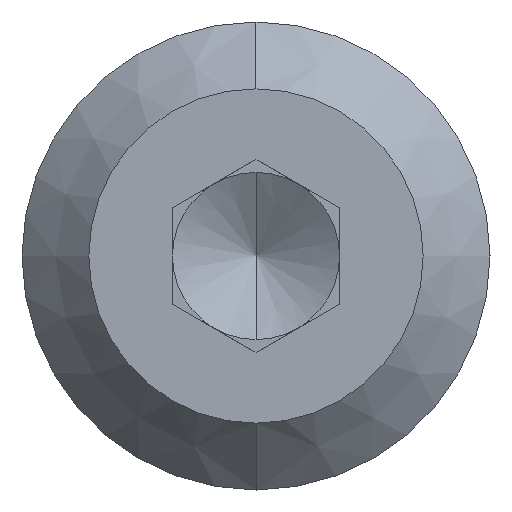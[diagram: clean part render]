
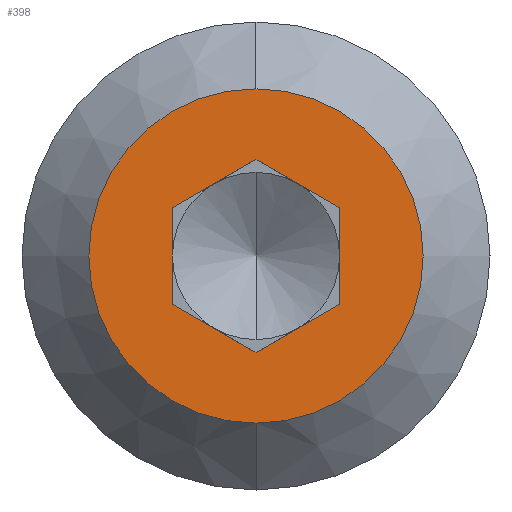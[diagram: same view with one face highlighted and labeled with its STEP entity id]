
A CAD part, left-side view. The second image highlights one B-rep face of the part: STEP entity #398.
In plain terms, the highlighted planar face has unit normal (-1, 0, 0).
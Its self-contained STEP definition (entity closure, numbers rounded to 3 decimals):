
#4 = ORIENTED_EDGE ( 'NONE', *, *, #58, .F. ) ;
#11 = DIRECTION ( 'NONE',  ( 0., 0., -1. ) ) ;
#15 = EDGE_CURVE ( 'NONE', #844, #641, #825, .T. ) ;
#18 = CARTESIAN_POINT ( 'NONE',  ( -9.5, 2.5, 0. ) ) ;
#48 = DIRECTION ( 'NONE',  ( 0., 0., -1. ) ) ;
#58 = EDGE_CURVE ( 'NONE', #629, #303, #1059, .T. ) ;
#79 = EDGE_LOOP ( 'NONE', ( #4, #839, #201, #671, #355, #1046 ) ) ;
#100 = PLANE ( 'NONE',  #226 ) ;
#125 = VECTOR ( 'NONE', #786, 1000. ) ;
#127 = CIRCLE ( 'NONE', #831, 5. ) ;
#136 = EDGE_CURVE ( 'NONE', #1069, #629, #1009, .T. ) ;
#182 = CARTESIAN_POINT ( 'NONE',  ( -9.5, 0., -2.887 ) ) ;
#188 = EDGE_LOOP ( 'NONE', ( #204, #921 ) ) ;
#201 = ORIENTED_EDGE ( 'NONE', *, *, #745, .F. ) ;
#204 = ORIENTED_EDGE ( 'NONE', *, *, #803, .F. ) ;
#226 = AXIS2_PLACEMENT_3D ( 'NONE', #18, #526, #870 ) ;
#239 = VECTOR ( 'NONE', #826, 1000. ) ;
#264 = CARTESIAN_POINT ( 'NONE',  ( -9.5, 0., 0. ) ) ;
#268 = CARTESIAN_POINT ( 'NONE',  ( -9.5, -2.5, -1.443 ) ) ;
#270 = EDGE_CURVE ( 'NONE', #303, #368, #403, .T. ) ;
#282 = LINE ( 'NONE', #621, #1018 ) ;
#283 = CARTESIAN_POINT ( 'NONE',  ( -9.5, 2.5, 1.443 ) ) ;
#303 = VERTEX_POINT ( 'NONE', #283 ) ;
#339 = LINE ( 'NONE', #441, #125 ) ;
#355 = ORIENTED_EDGE ( 'NONE', *, *, #588, .F. ) ;
#368 = VERTEX_POINT ( 'NONE', #874 ) ;
#383 = CARTESIAN_POINT ( 'NONE',  ( -9.5, 0., 0. ) ) ;
#386 = CARTESIAN_POINT ( 'NONE',  ( -9.5, 0., 5. ) ) ;
#398 = ADVANCED_FACE ( 'NONE', ( #857, #612 ), #100, .T. ) ;
#403 = LINE ( 'NONE', #766, #506 ) ;
#441 = CARTESIAN_POINT ( 'NONE',  ( -9.5, -2.5, 0. ) ) ;
#483 = CARTESIAN_POINT ( 'NONE',  ( -9.5, 0., -5. ) ) ;
#487 = AXIS2_PLACEMENT_3D ( 'NONE', #383, #551, #48 ) ;
#493 = CARTESIAN_POINT ( 'NONE',  ( -9.5, 0.625, 3.248 ) ) ;
#495 = LINE ( 'NONE', #570, #635 ) ;
#506 = VECTOR ( 'NONE', #11, 1000. ) ;
#526 = DIRECTION ( 'NONE',  ( -1., 0., 0. ) ) ;
#551 = DIRECTION ( 'NONE',  ( 1., 0., 0. ) ) ;
#570 = CARTESIAN_POINT ( 'NONE',  ( -9.5, 3.125, -1.083 ) ) ;
#588 = EDGE_CURVE ( 'NONE', #368, #708, #495, .T. ) ;
#612 = FACE_OUTER_BOUND ( 'NONE', #188, .T. ) ;
#621 = CARTESIAN_POINT ( 'NONE',  ( -9.5, 0.625, -3.248 ) ) ;
#629 = VERTEX_POINT ( 'NONE', #1008 ) ;
#635 = VECTOR ( 'NONE', #923, 1000. ) ;
#641 = VERTEX_POINT ( 'NONE', #483 ) ;
#671 = ORIENTED_EDGE ( 'NONE', *, *, #836, .F. ) ;
#708 = VERTEX_POINT ( 'NONE', #182 ) ;
#721 = VECTOR ( 'NONE', #1050, 1000. ) ;
#745 = EDGE_CURVE ( 'NONE', #817, #1069, #339, .T. ) ;
#766 = CARTESIAN_POINT ( 'NONE',  ( -9.5, 2.5, 0. ) ) ;
#786 = DIRECTION ( 'NONE',  ( 0., 0., 1. ) ) ;
#803 = EDGE_CURVE ( 'NONE', #641, #844, #127, .T. ) ;
#807 = CARTESIAN_POINT ( 'NONE',  ( -9.5, 3.125, 1.083 ) ) ;
#817 = VERTEX_POINT ( 'NONE', #268 ) ;
#825 = CIRCLE ( 'NONE', #487, 5. ) ;
#826 = DIRECTION ( 'NONE',  ( 0., 0.866, 0.5 ) ) ;
#831 = AXIS2_PLACEMENT_3D ( 'NONE', #264, #1020, #939 ) ;
#836 = EDGE_CURVE ( 'NONE', #708, #817, #282, .T. ) ;
#839 = ORIENTED_EDGE ( 'NONE', *, *, #136, .F. ) ;
#844 = VERTEX_POINT ( 'NONE', #386 ) ;
#857 = FACE_BOUND ( 'NONE', #79, .T. ) ;
#870 = DIRECTION ( 'NONE',  ( 0., 0., 1. ) ) ;
#874 = CARTESIAN_POINT ( 'NONE',  ( -9.5, 2.5, -1.443 ) ) ;
#921 = ORIENTED_EDGE ( 'NONE', *, *, #15, .F. ) ;
#923 = DIRECTION ( 'NONE',  ( 0., -0.866, -0.5 ) ) ;
#939 = DIRECTION ( 'NONE',  ( 0., 0., -1. ) ) ;
#957 = DIRECTION ( 'NONE',  ( 0., -0.866, 0.5 ) ) ;
#1008 = CARTESIAN_POINT ( 'NONE',  ( -9.5, 0., 2.887 ) ) ;
#1009 = LINE ( 'NONE', #493, #239 ) ;
#1018 = VECTOR ( 'NONE', #957, 1000. ) ;
#1020 = DIRECTION ( 'NONE',  ( 1., 0., 0. ) ) ;
#1046 = ORIENTED_EDGE ( 'NONE', *, *, #270, .F. ) ;
#1050 = DIRECTION ( 'NONE',  ( 0., 0.866, -0.5 ) ) ;
#1059 = LINE ( 'NONE', #807, #721 ) ;
#1069 = VERTEX_POINT ( 'NONE', #1076 ) ;
#1076 = CARTESIAN_POINT ( 'NONE',  ( -9.5, -2.5, 1.443 ) ) ;
